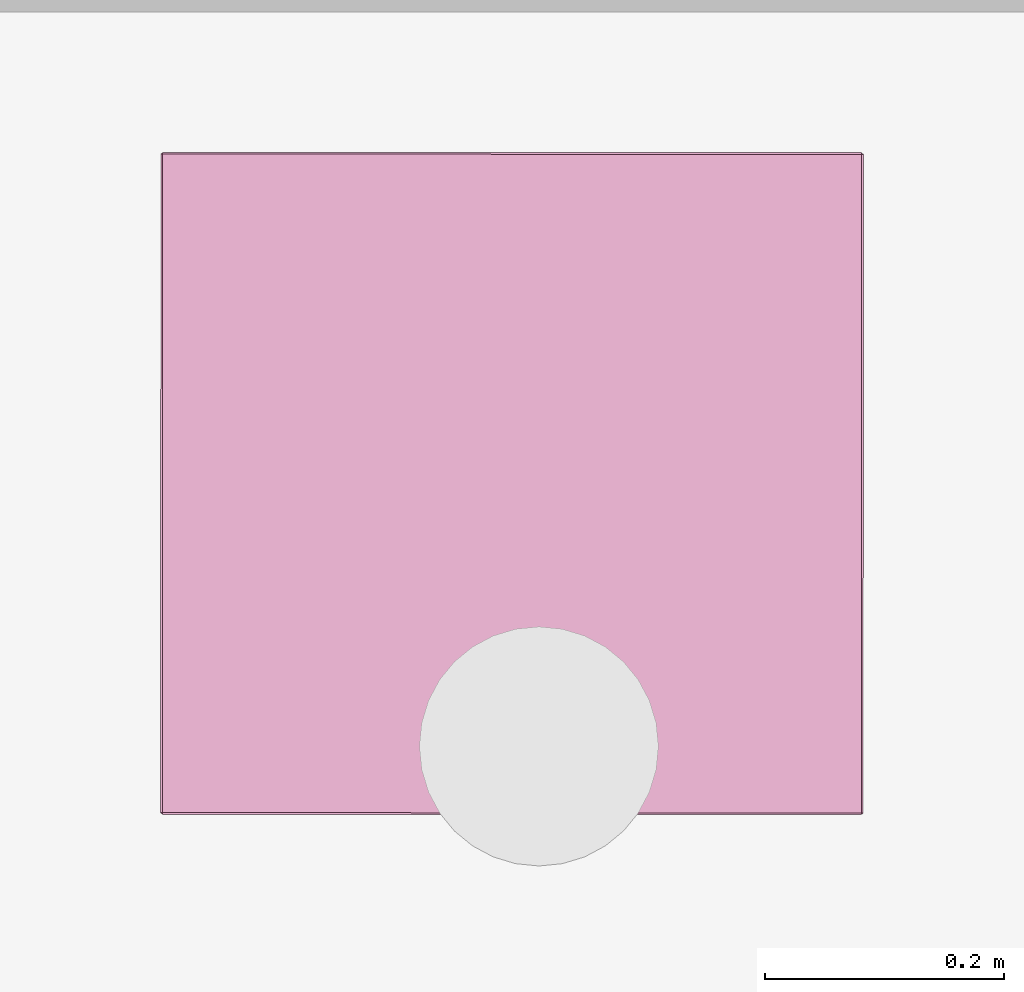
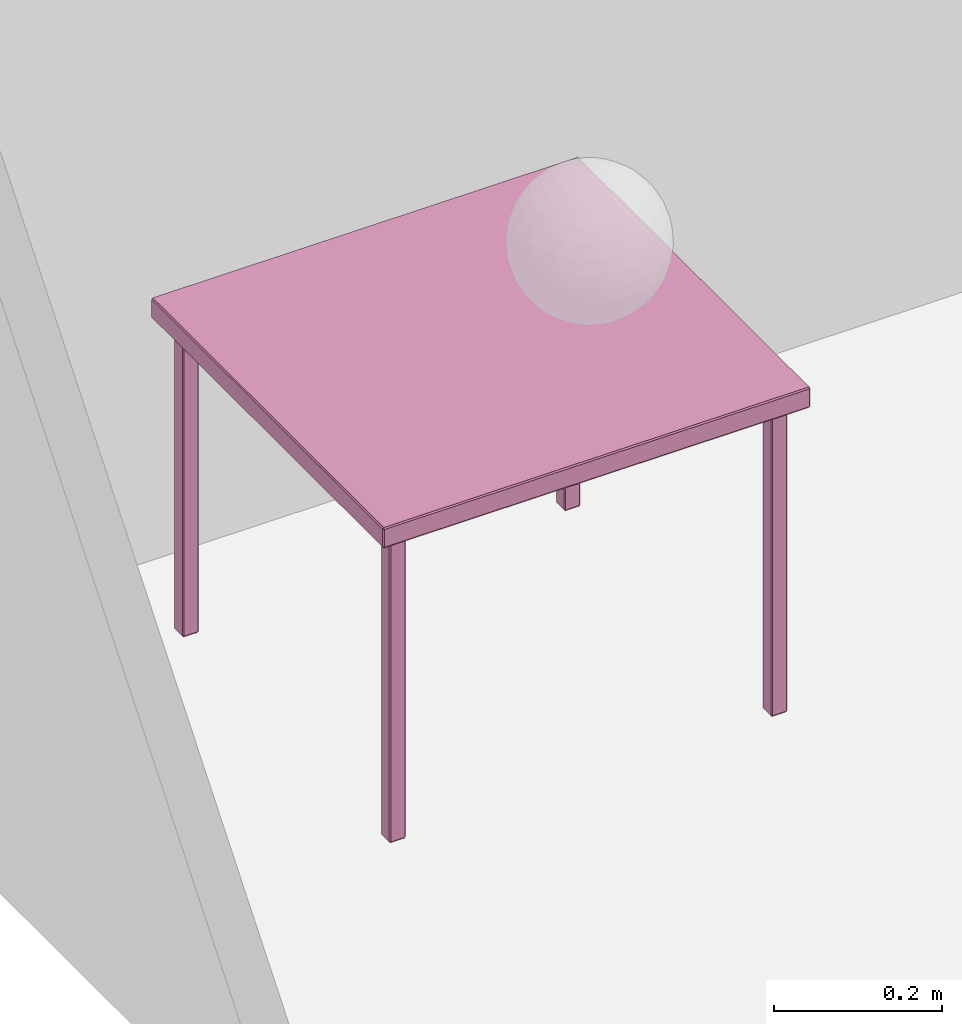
# One storey, part 11 of 12: 1 furnishing.
"""IFC2X3 building model written with IfcOpenShell, lengths in metres."""

from ifc_helpers import new_model, si_unit, direction, frame, origin_with_axes, place, context, project, spatial, faceted_brep, type_object, element, save


model = new_model("IFC2X3")

# Units and contexts
model_context = context("Model", 3, precision=1e-05, world=origin_with_axes(), true_north=direction((0.999, -0.05, 0.0)))
ifc_project = project(units=[si_unit("LENGTHUNIT", "METRE"), si_unit("AREAUNIT", "SQUARE_METRE")], contexts=[model_context])

# Site, building, storey, space
site_placement = place(None, origin_with_axes())
site = spatial("IfcSite", under=ifc_project, at=site_placement, Name="Site", CompositionType="ELEMENT")
building_placement = place(site_placement, origin_with_axes())
building = spatial("IfcBuilding", under=site, at=building_placement, Name="Building", CompositionType="ELEMENT")
storey_placement = place(building_placement, frame((0.0, 0.0, 5.96046447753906e-08), z_axis=(0.0, 0.0, 1.0), x_axis=(1.0, 0.0, 0.0)))
storey = spatial("IfcBuildingStorey", under=building, at=storey_placement, Name="Story 0", CompositionType="ELEMENT", Elevation=5.96046447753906e-08)
space_placement = place(storey_placement, frame((4.44695107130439, 2.32165387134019, 0.0), z_axis=(0.0, 0.0, 1.0), x_axis=(-0.00965765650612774, 0.999953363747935, 0.0)))
space = spatial("IfcSpace", under=storey, at=space_placement, Name="001", CompositionType="ELEMENT", InteriorOrExteriorSpace="INTERNAL")

# Furnishing
furniture_type = type_object("IfcFurnitureType", Name="def7dbe0-cf22-419e-a48c-93f5d0e9233a")
furnishing_placement = place(space_placement, frame((5.10248328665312, 0.2486005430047, 0.238469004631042), z_axis=(0.0, 0.0, 0.999999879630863), x_axis=(-0.999949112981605, 0.0100791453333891, 0.0)))
element("IfcFurnishingElement", 1, at=furnishing_placement, inside=space, type_object=furniture_type, Name="Table", ObjectType="Table", context=model_context, shape_type="Brep", body=[
    faceted_brep([(0.2751, 0.2935, 0.2108), (-0.2751, 0.2935, 0.2108), (0.2751, 0.2935, 0.2364), (-0.2751, 0.2935, 0.2364), (0.2751, 0.2935, 0.2364), (-0.2751, 0.2935, 0.2108), (0.2358, -0.2717, 0.2162), (0.2358, -0.2525, 0.2162), (0.2358, -0.2717, -0.2364), (0.2358, -0.2525, -0.2364), (0.2358, -0.2717, -0.2364), (0.2358, -0.2525, 0.2162), (0.2554, -0.2732, 0.2162), (0.2372, -0.2732, 0.2162), (0.2554, -0.2732, -0.2364), (0.2372, -0.2732, -0.2364), (0.2554, -0.2732, -0.2364), (0.2372, -0.2732, 0.2162), (0.2567, -0.2525, 0.2162), (0.2567, -0.2717, 0.2162), (0.2567, -0.2525, -0.2364), (0.2567, -0.2717, -0.2364), (0.2567, -0.2525, -0.2364), (0.2567, -0.2717, 0.2162), (0.2372, -0.251, 0.2162), (0.2554, -0.251, 0.2162), (0.2372, -0.251, -0.2364), (0.2554, -0.251, -0.2364), (0.2372, -0.251, -0.2364), (0.2554, -0.251, 0.2162), (0.2358, 0.2717, 0.2162), (0.2358, 0.2717, -0.2364), (0.2358, 0.2525, 0.2162), (0.2358, 0.2525, -0.2364), (0.2358, 0.2525, 0.2162), (0.2358, 0.2717, -0.2364), (0.2554, 0.2732, 0.2162), (0.2554, 0.2732, -0.2364), (0.2372, 0.2732, 0.2162), (0.2372, 0.2732, -0.2364), (0.2372, 0.2732, 0.2162), (0.2554, 0.2732, -0.2364), (0.2567, 0.2525, 0.2162), (0.2567, 0.2525, -0.2364), (0.2567, 0.2717, 0.2162), (0.2567, 0.2717, -0.2364), (0.2567, 0.2717, 0.2162), (0.2567, 0.2525, -0.2364), (0.2372, 0.251, 0.2162), (0.2372, 0.251, -0.2364), (0.2554, 0.251, 0.2162), (0.2554, 0.251, -0.2364), (0.2554, 0.251, 0.2162), (0.2372, 0.251, -0.2364), (0.2765, 0.292, 0.2108), (0.2765, 0.292, 0.2364), (0.2765, -0.292, 0.2108), (0.2765, -0.292, 0.2364), (0.2765, -0.292, 0.2108), (0.2765, 0.292, 0.2364), (-0.2765, 0.292, 0.2364), (-0.2765, 0.292, 0.2108), (-0.2765, -0.292, 0.2364), (-0.2765, -0.292, 0.2108), (-0.2765, -0.292, 0.2364), (-0.2765, 0.292, 0.2108), (-0.2358, -0.2717, 0.2162), (-0.2358, -0.2717, -0.2364), (-0.2358, -0.2525, 0.2162), (-0.2358, -0.2525, -0.2364), (-0.2358, -0.2525, 0.2162), (-0.2358, -0.2717, -0.2364), (-0.2554, -0.2732, 0.2162), (-0.2554, -0.2732, -0.2364), (-0.2372, -0.2732, 0.2162), (-0.2372, -0.2732, -0.2364), (-0.2372, -0.2732, 0.2162), (-0.2554, -0.2732, -0.2364), (-0.2567, -0.2525, 0.2162), (-0.2567, -0.2525, -0.2364), (-0.2567, -0.2717, 0.2162), (-0.2567, -0.2717, -0.2364), (-0.2567, -0.2717, 0.2162), (-0.2567, -0.2525, -0.2364), (-0.2372, -0.251, 0.2162), (-0.2372, -0.251, -0.2364), (-0.2554, -0.251, 0.2162), (-0.2554, -0.251, -0.2364), (-0.2554, -0.251, 0.2162), (-0.2372, -0.251, -0.2364), (-0.2358, 0.2717, 0.2162), (-0.2358, 0.2525, 0.2162), (-0.2358, 0.2717, -0.2364), (-0.2358, 0.2525, -0.2364), (-0.2358, 0.2717, -0.2364), (-0.2358, 0.2525, 0.2162), (-0.2554, 0.2732, 0.2162), (-0.2372, 0.2732, 0.2162), (-0.2554, 0.2732, -0.2364), (-0.2372, 0.2732, -0.2364), (-0.2554, 0.2732, -0.2364), (-0.2372, 0.2732, 0.2162), (-0.2567, 0.2525, 0.2162), (-0.2567, 0.2717, 0.2162), (-0.2567, 0.2525, -0.2364), (-0.2567, 0.2717, -0.2364), (-0.2567, 0.2525, -0.2364), (-0.2567, 0.2717, 0.2162), (-0.2372, 0.251, 0.2162), (-0.2554, 0.251, 0.2162), (-0.2372, 0.251, -0.2364), (-0.2554, 0.251, -0.2364), (-0.2372, 0.251, -0.2364), (-0.2554, 0.251, 0.2162), (-0.2751, 0.292, 0.2385), (-0.2751, -0.292, 0.2385), (0.2751, 0.292, 0.2385), (0.2751, -0.292, 0.2385), (0.2751, 0.292, 0.2385), (-0.2751, -0.292, 0.2385), (0.2751, -0.2935, 0.2108), (0.2751, -0.2935, 0.2364), (-0.2751, -0.2935, 0.2108), (-0.2751, -0.2935, 0.2364), (-0.2751, -0.2935, 0.2108), (0.2751, -0.2935, 0.2364), (0.2751, -0.292, 0.2087), (-0.2751, -0.292, 0.2087), (0.2751, 0.292, 0.2087), (-0.2751, 0.292, 0.2087), (0.2751, 0.292, 0.2087), (-0.2751, -0.292, 0.2087), (0.2554, -0.2717, 0.2183), (0.2554, -0.2525, 0.2183), (0.2372, -0.2717, 0.2183), (0.2372, -0.2525, 0.2183), (0.2372, -0.2717, 0.2183), (0.2554, -0.2525, 0.2183), (0.2554, -0.2525, -0.2385), (0.2554, -0.2717, -0.2385), (0.2372, -0.2525, -0.2385), (0.2372, -0.2717, -0.2385), (0.2372, -0.2525, -0.2385), (0.2554, -0.2717, -0.2385), (0.2554, 0.2717, -0.2385), (0.2554, 0.2525, -0.2385), (0.2372, 0.2717, -0.2385), (0.2372, 0.2525, -0.2385), (0.2372, 0.2717, -0.2385), (0.2554, 0.2525, -0.2385), (0.2554, 0.2525, 0.2183), (0.2554, 0.2717, 0.2183), (0.2372, 0.2525, 0.2183), (0.2372, 0.2717, 0.2183), (0.2372, 0.2525, 0.2183), (0.2554, 0.2717, 0.2183), (-0.2554, -0.2717, -0.2385), (-0.2554, -0.2525, -0.2385), (-0.2372, -0.2717, -0.2385), (-0.2372, -0.2525, -0.2385), (-0.2372, -0.2717, -0.2385), (-0.2554, -0.2525, -0.2385), (-0.2554, -0.2525, 0.2183), (-0.2554, -0.2717, 0.2183), (-0.2372, -0.2525, 0.2183), (-0.2372, -0.2717, 0.2183), (-0.2372, -0.2525, 0.2183), (-0.2554, -0.2717, 0.2183), (-0.2554, 0.2717, 0.2183), (-0.2554, 0.2525, 0.2183), (-0.2372, 0.2717, 0.2183), (-0.2372, 0.2525, 0.2183), (-0.2372, 0.2717, 0.2183), (-0.2554, 0.2525, 0.2183), (-0.2554, 0.2525, -0.2385), (-0.2554, 0.2717, -0.2385), (-0.2372, 0.2525, -0.2385), (-0.2372, 0.2717, -0.2385), (-0.2372, 0.2525, -0.2385), (-0.2554, 0.2717, -0.2385), (-0.2751, 0.292, 0.2385), (-0.2751, 0.2935, 0.2364), (-0.2765, 0.292, 0.2364), (0.2372, -0.2525, -0.2385), (0.2358, -0.2525, -0.2364), (0.2372, -0.251, -0.2364), (0.2372, -0.2717, -0.2385), (0.2372, -0.2732, -0.2364), (0.2358, -0.2717, -0.2364), (0.2554, -0.2717, -0.2385), (0.2567, -0.2717, -0.2364), (0.2554, -0.2732, -0.2364), (0.2554, -0.2525, -0.2385), (0.2554, -0.251, -0.2364), (0.2567, -0.2525, -0.2364), (0.2372, -0.2525, 0.2183), (0.2372, -0.251, 0.2162), (0.2358, -0.2525, 0.2162), (0.2372, 0.251, -0.2364), (0.2358, 0.2525, -0.2364), (0.2372, 0.2525, -0.2385), (0.2372, 0.2717, 0.2183), (0.2372, 0.2732, 0.2162), (0.2358, 0.2717, 0.2162), (0.2554, 0.2717, 0.2183), (0.2567, 0.2717, 0.2162), (0.2554, 0.2732, 0.2162), (0.2554, 0.2525, 0.2183), (0.2554, 0.251, 0.2162), (0.2567, 0.2525, 0.2162), (0.2751, -0.2935, 0.2364), (0.2765, -0.292, 0.2364), (0.2751, -0.292, 0.2385), (0.2751, 0.292, 0.2385), (0.2765, 0.292, 0.2364), (0.2751, 0.2935, 0.2364), (-0.2751, -0.2935, 0.2108), (-0.2765, -0.292, 0.2108), (-0.2751, -0.292, 0.2087), (-0.2751, 0.292, 0.2087), (-0.2765, 0.292, 0.2108), (-0.2751, 0.2935, 0.2108), (-0.2372, -0.251, -0.2364), (-0.2358, -0.2525, -0.2364), (-0.2372, -0.2525, -0.2385), (-0.2372, -0.2717, 0.2183), (-0.2372, -0.2732, 0.2162), (-0.2358, -0.2717, 0.2162), (-0.2554, -0.2717, 0.2183), (-0.2567, -0.2717, 0.2162), (-0.2554, -0.2732, 0.2162), (-0.2554, -0.2525, 0.2183), (-0.2554, -0.251, 0.2162), (-0.2567, -0.2525, 0.2162), (-0.2372, 0.2525, -0.2385), (-0.2358, 0.2525, -0.2364), (-0.2372, 0.251, -0.2364), (-0.2372, 0.2717, -0.2385), (-0.2372, 0.2732, -0.2364), (-0.2358, 0.2717, -0.2364), (-0.2554, 0.2717, -0.2385), (-0.2567, 0.2717, -0.2364), (-0.2554, 0.2732, -0.2364), (-0.2554, 0.2525, -0.2385), (-0.2554, 0.251, -0.2364), (-0.2567, 0.2525, -0.2364), (-0.2372, 0.2525, 0.2183), (-0.2372, 0.251, 0.2162), (-0.2358, 0.2525, 0.2162), (-0.2751, -0.2935, 0.2364), (-0.2751, -0.292, 0.2385), (-0.2765, -0.292, 0.2364), (0.2751, -0.2935, 0.2108), (0.2751, -0.292, 0.2087), (0.2765, -0.292, 0.2108), (0.2765, 0.292, 0.2108), (0.2751, 0.292, 0.2087), (0.2751, 0.2935, 0.2108), (0.2554, -0.251, 0.2162), (0.2554, -0.2525, 0.2183), (0.2567, -0.2525, 0.2162), (0.2567, -0.2717, 0.2162), (0.2554, -0.2717, 0.2183), (0.2554, -0.2732, 0.2162), (0.2372, -0.2732, 0.2162), (0.2372, -0.2717, 0.2183), (0.2358, -0.2717, 0.2162), (0.2554, 0.251, -0.2364), (0.2554, 0.2525, -0.2385), (0.2567, 0.2525, -0.2364), (0.2567, 0.2717, -0.2364), (0.2554, 0.2717, -0.2385), (0.2554, 0.2732, -0.2364), (0.2372, 0.2732, -0.2364), (0.2372, 0.2717, -0.2385), (0.2358, 0.2717, -0.2364), (0.2372, 0.251, 0.2162), (0.2372, 0.2525, 0.2183), (0.2358, 0.2525, 0.2162), (-0.2554, -0.251, -0.2364), (-0.2554, -0.2525, -0.2385), (-0.2567, -0.2525, -0.2364), (-0.2567, -0.2717, -0.2364), (-0.2554, -0.2717, -0.2385), (-0.2554, -0.2732, -0.2364), (-0.2372, -0.2732, -0.2364), (-0.2372, -0.2717, -0.2385), (-0.2358, -0.2717, -0.2364), (-0.2372, -0.251, 0.2162), (-0.2372, -0.2525, 0.2183), (-0.2358, -0.2525, 0.2162), (-0.2554, 0.251, 0.2162), (-0.2554, 0.2525, 0.2183), (-0.2567, 0.2525, 0.2162), (-0.2567, 0.2717, 0.2162), (-0.2554, 0.2717, 0.2183), (-0.2554, 0.2732, 0.2162), (-0.2372, 0.2732, 0.2162), (-0.2372, 0.2717, 0.2183), (-0.2358, 0.2717, 0.2162), (-0.2751, 0.2935, 0.2364), (-0.2751, 0.2935, 0.2108), (-0.2765, 0.292, 0.2364), (-0.2765, 0.292, 0.2108), (-0.2765, 0.292, 0.2364), (-0.2751, 0.2935, 0.2108), (-0.2751, 0.2935, 0.2108), (0.2751, 0.2935, 0.2108), (-0.2751, 0.292, 0.2087), (0.2751, 0.292, 0.2087), (-0.2751, 0.292, 0.2087), (0.2751, 0.2935, 0.2108), (0.2751, 0.2935, 0.2108), (0.2751, 0.2935, 0.2364), (0.2765, 0.292, 0.2108), (0.2765, 0.292, 0.2364), (0.2765, 0.292, 0.2108), (0.2751, 0.2935, 0.2364), (0.2751, 0.2935, 0.2364), (-0.2751, 0.2935, 0.2364), (0.2751, 0.292, 0.2385), (-0.2751, 0.292, 0.2385), (0.2751, 0.292, 0.2385), (-0.2751, 0.2935, 0.2364), (0.2358, -0.2525, -0.2364), (0.2358, -0.2525, 0.2162), (0.2372, -0.251, -0.2364), (0.2372, -0.251, 0.2162), (0.2372, -0.251, -0.2364), (0.2358, -0.2525, 0.2162), (0.2358, -0.2525, 0.2162), (0.2358, -0.2717, 0.2162), (0.2372, -0.2525, 0.2183), (0.2372, -0.2717, 0.2183), (0.2372, -0.2525, 0.2183), (0.2358, -0.2717, 0.2162), (0.2358, -0.2717, 0.2162), (0.2358, -0.2717, -0.2364), (0.2372, -0.2732, 0.2162), (0.2372, -0.2732, -0.2364), (0.2372, -0.2732, 0.2162), (0.2358, -0.2717, -0.2364), (0.2358, -0.2717, -0.2364), (0.2358, -0.2525, -0.2364), (0.2372, -0.2717, -0.2385), (0.2372, -0.2525, -0.2385), (0.2372, -0.2717, -0.2385), (0.2358, -0.2525, -0.2364), (0.2372, -0.2732, 0.2162), (0.2554, -0.2732, 0.2162), (0.2372, -0.2717, 0.2183), (0.2554, -0.2717, 0.2183), (0.2372, -0.2717, 0.2183), (0.2554, -0.2732, 0.2162), (0.2554, -0.2732, 0.2162), (0.2554, -0.2732, -0.2364), (0.2567, -0.2717, 0.2162), (0.2567, -0.2717, -0.2364), (0.2567, -0.2717, 0.2162), (0.2554, -0.2732, -0.2364), (0.2554, -0.2732, -0.2364), (0.2372, -0.2732, -0.2364), (0.2554, -0.2717, -0.2385), (0.2372, -0.2717, -0.2385), (0.2554, -0.2717, -0.2385), (0.2372, -0.2732, -0.2364), (0.2567, -0.2717, 0.2162), (0.2567, -0.2525, 0.2162), (0.2554, -0.2717, 0.2183), (0.2554, -0.2525, 0.2183), (0.2554, -0.2717, 0.2183), (0.2567, -0.2525, 0.2162), (0.2567, -0.2525, 0.2162), (0.2567, -0.2525, -0.2364), (0.2554, -0.251, 0.2162), (0.2554, -0.251, -0.2364), (0.2554, -0.251, 0.2162), (0.2567, -0.2525, -0.2364), (0.2567, -0.2525, -0.2364), (0.2567, -0.2717, -0.2364), (0.2554, -0.2525, -0.2385), (0.2554, -0.2717, -0.2385), (0.2554, -0.2525, -0.2385), (0.2567, -0.2717, -0.2364), (0.2554, -0.251, 0.2162), (0.2372, -0.251, 0.2162), (0.2554, -0.2525, 0.2183), (0.2372, -0.2525, 0.2183), (0.2554, -0.2525, 0.2183), (0.2372, -0.251, 0.2162), (0.2372, -0.251, -0.2364), (0.2554, -0.251, -0.2364), (0.2372, -0.2525, -0.2385), (0.2554, -0.2525, -0.2385), (0.2372, -0.2525, -0.2385), (0.2554, -0.251, -0.2364), (0.2358, 0.2525, -0.2364), (0.2358, 0.2717, -0.2364), (0.2372, 0.2525, -0.2385), (0.2372, 0.2717, -0.2385), (0.2372, 0.2525, -0.2385), (0.2358, 0.2717, -0.2364), (0.2358, 0.2717, -0.2364), (0.2358, 0.2717, 0.2162), (0.2372, 0.2732, -0.2364), (0.2372, 0.2732, 0.2162), (0.2372, 0.2732, -0.2364), (0.2358, 0.2717, 0.2162), (0.2358, 0.2717, 0.2162), (0.2358, 0.2525, 0.2162), (0.2372, 0.2717, 0.2183), (0.2372, 0.2525, 0.2183), (0.2372, 0.2717, 0.2183), (0.2358, 0.2525, 0.2162), (0.2358, 0.2525, 0.2162), (0.2358, 0.2525, -0.2364), (0.2372, 0.251, 0.2162), (0.2372, 0.251, -0.2364), (0.2372, 0.251, 0.2162), (0.2358, 0.2525, -0.2364), (0.2372, 0.2732, -0.2364), (0.2554, 0.2732, -0.2364), (0.2372, 0.2717, -0.2385), (0.2554, 0.2717, -0.2385), (0.2372, 0.2717, -0.2385), (0.2554, 0.2732, -0.2364), (0.2554, 0.2732, -0.2364), (0.2554, 0.2732, 0.2162), (0.2567, 0.2717, -0.2364), (0.2567, 0.2717, 0.2162), (0.2567, 0.2717, -0.2364), (0.2554, 0.2732, 0.2162), (0.2554, 0.2732, 0.2162), (0.2372, 0.2732, 0.2162), (0.2554, 0.2717, 0.2183), (0.2372, 0.2717, 0.2183), (0.2554, 0.2717, 0.2183), (0.2372, 0.2732, 0.2162), (0.2567, 0.2717, -0.2364), (0.2567, 0.2525, -0.2364), (0.2554, 0.2717, -0.2385), (0.2554, 0.2525, -0.2385), (0.2554, 0.2717, -0.2385), (0.2567, 0.2525, -0.2364), (0.2567, 0.2525, -0.2364), (0.2567, 0.2525, 0.2162), (0.2554, 0.251, -0.2364), (0.2554, 0.251, 0.2162), (0.2554, 0.251, -0.2364), (0.2567, 0.2525, 0.2162), (0.2567, 0.2525, 0.2162), (0.2567, 0.2717, 0.2162), (0.2554, 0.2525, 0.2183), (0.2554, 0.2717, 0.2183), (0.2554, 0.2525, 0.2183), (0.2567, 0.2717, 0.2162), (0.2554, 0.251, -0.2364), (0.2372, 0.251, -0.2364), (0.2554, 0.2525, -0.2385), (0.2372, 0.2525, -0.2385), (0.2554, 0.2525, -0.2385), (0.2372, 0.251, -0.2364), (0.2372, 0.251, 0.2162), (0.2554, 0.251, 0.2162), (0.2372, 0.2525, 0.2183), (0.2554, 0.2525, 0.2183), (0.2372, 0.2525, 0.2183), (0.2554, 0.251, 0.2162), (0.2765, -0.292, 0.2364), (0.2765, 0.292, 0.2364), (0.2751, -0.292, 0.2385), (0.2751, 0.292, 0.2385), (0.2751, -0.292, 0.2385), (0.2765, 0.292, 0.2364), (0.2765, 0.292, 0.2108), (0.2765, -0.292, 0.2108), (0.2751, 0.292, 0.2087), (0.2751, -0.292, 0.2087), (0.2751, 0.292, 0.2087), (0.2765, -0.292, 0.2108), (0.2765, -0.292, 0.2108), (0.2765, -0.292, 0.2364), (0.2751, -0.2935, 0.2108), (0.2751, -0.2935, 0.2364), (0.2751, -0.2935, 0.2108), (0.2765, -0.292, 0.2364), (-0.2765, -0.292, 0.2108), (-0.2765, 0.292, 0.2108), (-0.2751, -0.292, 0.2087), (-0.2751, 0.292, 0.2087), (-0.2751, -0.292, 0.2087), (-0.2765, 0.292, 0.2108), (-0.2765, 0.292, 0.2364), (-0.2765, -0.292, 0.2364), (-0.2751, 0.292, 0.2385), (-0.2751, -0.292, 0.2385), (-0.2751, 0.292, 0.2385), (-0.2765, -0.292, 0.2364), (-0.2765, -0.292, 0.2364), (-0.2765, -0.292, 0.2108), (-0.2751, -0.2935, 0.2364), (-0.2751, -0.2935, 0.2108), (-0.2751, -0.2935, 0.2364), (-0.2765, -0.292, 0.2108), (-0.2358, -0.2525, -0.2364), (-0.2358, -0.2717, -0.2364), (-0.2372, -0.2525, -0.2385), (-0.2372, -0.2717, -0.2385), (-0.2372, -0.2525, -0.2385), (-0.2358, -0.2717, -0.2364), (-0.2358, -0.2717, -0.2364), (-0.2358, -0.2717, 0.2162), (-0.2372, -0.2732, -0.2364), (-0.2372, -0.2732, 0.2162), (-0.2372, -0.2732, -0.2364), (-0.2358, -0.2717, 0.2162), (-0.2358, -0.2717, 0.2162), (-0.2358, -0.2525, 0.2162), (-0.2372, -0.2717, 0.2183), (-0.2372, -0.2525, 0.2183), (-0.2372, -0.2717, 0.2183), (-0.2358, -0.2525, 0.2162), (-0.2358, -0.2525, 0.2162), (-0.2358, -0.2525, -0.2364), (-0.2372, -0.251, 0.2162), (-0.2372, -0.251, -0.2364), (-0.2372, -0.251, 0.2162), (-0.2358, -0.2525, -0.2364), (-0.2372, -0.2732, -0.2364), (-0.2554, -0.2732, -0.2364), (-0.2372, -0.2717, -0.2385), (-0.2554, -0.2717, -0.2385), (-0.2372, -0.2717, -0.2385), (-0.2554, -0.2732, -0.2364), (-0.2554, -0.2732, -0.2364), (-0.2554, -0.2732, 0.2162), (-0.2567, -0.2717, -0.2364), (-0.2567, -0.2717, 0.2162), (-0.2567, -0.2717, -0.2364), (-0.2554, -0.2732, 0.2162), (-0.2554, -0.2732, 0.2162), (-0.2372, -0.2732, 0.2162), (-0.2554, -0.2717, 0.2183), (-0.2372, -0.2717, 0.2183), (-0.2554, -0.2717, 0.2183), (-0.2372, -0.2732, 0.2162), (-0.2567, -0.2717, -0.2364), (-0.2567, -0.2525, -0.2364), (-0.2554, -0.2717, -0.2385), (-0.2554, -0.2525, -0.2385), (-0.2554, -0.2717, -0.2385), (-0.2567, -0.2525, -0.2364), (-0.2567, -0.2525, -0.2364), (-0.2567, -0.2525, 0.2162), (-0.2554, -0.251, -0.2364), (-0.2554, -0.251, 0.2162), (-0.2554, -0.251, -0.2364), (-0.2567, -0.2525, 0.2162), (-0.2567, -0.2525, 0.2162), (-0.2567, -0.2717, 0.2162), (-0.2554, -0.2525, 0.2183), (-0.2554, -0.2717, 0.2183), (-0.2554, -0.2525, 0.2183), (-0.2567, -0.2717, 0.2162), (-0.2554, -0.251, -0.2364), (-0.2372, -0.251, -0.2364), (-0.2554, -0.2525, -0.2385), (-0.2372, -0.2525, -0.2385), (-0.2554, -0.2525, -0.2385), (-0.2372, -0.251, -0.2364), (-0.2372, -0.251, 0.2162), (-0.2554, -0.251, 0.2162), (-0.2372, -0.2525, 0.2183), (-0.2554, -0.2525, 0.2183), (-0.2372, -0.2525, 0.2183), (-0.2554, -0.251, 0.2162), (-0.2358, 0.2525, -0.2364), (-0.2358, 0.2525, 0.2162), (-0.2372, 0.251, -0.2364), (-0.2372, 0.251, 0.2162), (-0.2372, 0.251, -0.2364), (-0.2358, 0.2525, 0.2162), (-0.2358, 0.2525, 0.2162), (-0.2358, 0.2717, 0.2162), (-0.2372, 0.2525, 0.2183), (-0.2372, 0.2717, 0.2183), (-0.2372, 0.2525, 0.2183), (-0.2358, 0.2717, 0.2162), (-0.2358, 0.2717, 0.2162), (-0.2358, 0.2717, -0.2364), (-0.2372, 0.2732, 0.2162), (-0.2372, 0.2732, -0.2364), (-0.2372, 0.2732, 0.2162), (-0.2358, 0.2717, -0.2364), (-0.2358, 0.2717, -0.2364), (-0.2358, 0.2525, -0.2364), (-0.2372, 0.2717, -0.2385), (-0.2372, 0.2525, -0.2385), (-0.2372, 0.2717, -0.2385), (-0.2358, 0.2525, -0.2364), (-0.2372, 0.2732, 0.2162), (-0.2554, 0.2732, 0.2162), (-0.2372, 0.2717, 0.2183), (-0.2554, 0.2717, 0.2183), (-0.2372, 0.2717, 0.2183), (-0.2554, 0.2732, 0.2162), (-0.2554, 0.2732, 0.2162), (-0.2554, 0.2732, -0.2364), (-0.2567, 0.2717, 0.2162), (-0.2567, 0.2717, -0.2364), (-0.2567, 0.2717, 0.2162), (-0.2554, 0.2732, -0.2364), (-0.2554, 0.2732, -0.2364), (-0.2372, 0.2732, -0.2364), (-0.2554, 0.2717, -0.2385), (-0.2372, 0.2717, -0.2385), (-0.2554, 0.2717, -0.2385), (-0.2372, 0.2732, -0.2364), (-0.2567, 0.2717, 0.2162), (-0.2567, 0.2525, 0.2162), (-0.2554, 0.2717, 0.2183), (-0.2554, 0.2525, 0.2183), (-0.2554, 0.2717, 0.2183), (-0.2567, 0.2525, 0.2162), (-0.2567, 0.2525, 0.2162), (-0.2567, 0.2525, -0.2364), (-0.2554, 0.251, 0.2162), (-0.2554, 0.251, -0.2364), (-0.2554, 0.251, 0.2162), (-0.2567, 0.2525, -0.2364), (-0.2567, 0.2525, -0.2364), (-0.2567, 0.2717, -0.2364), (-0.2554, 0.2525, -0.2385), (-0.2554, 0.2717, -0.2385), (-0.2554, 0.2525, -0.2385), (-0.2567, 0.2717, -0.2364), (-0.2554, 0.251, 0.2162), (-0.2372, 0.251, 0.2162), (-0.2554, 0.2525, 0.2183), (-0.2372, 0.2525, 0.2183), (-0.2554, 0.2525, 0.2183), (-0.2372, 0.251, 0.2162), (-0.2372, 0.251, -0.2364), (-0.2554, 0.251, -0.2364), (-0.2372, 0.2525, -0.2385), (-0.2554, 0.2525, -0.2385), (-0.2372, 0.2525, -0.2385), (-0.2554, 0.251, -0.2364), (0.2751, -0.292, 0.2385), (-0.2751, -0.292, 0.2385), (0.2751, -0.2935, 0.2364), (-0.2751, -0.2935, 0.2364), (0.2751, -0.2935, 0.2364), (-0.2751, -0.292, 0.2385), (0.2751, -0.2935, 0.2108), (-0.2751, -0.2935, 0.2108), (0.2751, -0.292, 0.2087), (-0.2751, -0.292, 0.2087), (0.2751, -0.292, 0.2087), (-0.2751, -0.2935, 0.2108)], [[[0, 1, 2]], [[3, 4, 5]], [[6, 7, 8]], [[9, 10, 11]], [[12, 13, 14]], [[15, 16, 17]], [[18, 19, 20]], [[21, 22, 23]], [[24, 25, 26]], [[27, 28, 29]], [[30, 31, 32]], [[33, 34, 35]], [[36, 37, 38]], [[39, 40, 41]], [[42, 43, 44]], [[45, 46, 47]], [[48, 49, 50]], [[51, 52, 53]], [[54, 55, 56]], [[57, 58, 59]], [[60, 61, 62]], [[63, 64, 65]], [[66, 67, 68]], [[69, 70, 71]], [[72, 73, 74]], [[75, 76, 77]], [[78, 79, 80]], [[81, 82, 83]], [[84, 85, 86]], [[87, 88, 89]], [[90, 91, 92]], [[93, 94, 95]], [[96, 97, 98]], [[99, 100, 101]], [[102, 103, 104]], [[105, 106, 107]], [[108, 109, 110]], [[111, 112, 113]], [[114, 115, 116]], [[117, 118, 119]], [[120, 121, 122]], [[123, 124, 125]], [[126, 127, 128]], [[129, 130, 131]], [[132, 133, 134]], [[135, 136, 137]], [[138, 139, 140]], [[141, 142, 143]], [[144, 145, 146]], [[147, 148, 149]], [[150, 151, 152]], [[153, 154, 155]], [[156, 157, 158]], [[159, 160, 161]], [[162, 163, 164]], [[165, 166, 167]], [[168, 169, 170]], [[171, 172, 173]], [[174, 175, 176]], [[177, 178, 179]], [[180, 181, 182]], [[183, 184, 185]], [[186, 187, 188]], [[189, 190, 191]], [[192, 193, 194]], [[195, 196, 197]], [[198, 199, 200]], [[201, 202, 203]], [[204, 205, 206]], [[207, 208, 209]], [[210, 211, 212]], [[213, 214, 215]], [[216, 217, 218]], [[219, 220, 221]], [[222, 223, 224]], [[225, 226, 227]], [[228, 229, 230]], [[231, 232, 233]], [[234, 235, 236]], [[237, 238, 239]], [[240, 241, 242]], [[243, 244, 245]], [[246, 247, 248]], [[249, 250, 251]], [[252, 253, 254]], [[255, 256, 257]], [[258, 259, 260]], [[261, 262, 263]], [[264, 265, 266]], [[267, 268, 269]], [[270, 271, 272]], [[273, 274, 275]], [[276, 277, 278]], [[279, 280, 281]], [[282, 283, 284]], [[285, 286, 287]], [[288, 289, 290]], [[291, 292, 293]], [[294, 295, 296]], [[297, 298, 299]], [[300, 301, 302]], [[303, 304, 305]], [[306, 307, 308]], [[309, 310, 311]], [[312, 313, 314]], [[315, 316, 317]], [[318, 319, 320]], [[321, 322, 323]], [[324, 325, 326]], [[327, 328, 329]], [[330, 331, 332]], [[333, 334, 335]], [[336, 337, 338]], [[339, 340, 341]], [[342, 343, 344]], [[345, 346, 347]], [[348, 349, 350]], [[351, 352, 353]], [[354, 355, 356]], [[357, 358, 359]], [[360, 361, 362]], [[363, 364, 365]], [[366, 367, 368]], [[369, 370, 371]], [[372, 373, 374]], [[375, 376, 377]], [[378, 379, 380]], [[381, 382, 383]], [[384, 385, 386]], [[387, 388, 389]], [[390, 391, 392]], [[393, 394, 395]], [[396, 397, 398]], [[399, 400, 401]], [[402, 403, 404]], [[405, 406, 407]], [[408, 409, 410]], [[411, 412, 413]], [[414, 415, 416]], [[417, 418, 419]], [[420, 421, 422]], [[423, 424, 425]], [[426, 427, 428]], [[429, 430, 431]], [[432, 433, 434]], [[435, 436, 437]], [[438, 439, 440]], [[441, 442, 443]], [[444, 445, 446]], [[447, 448, 449]], [[450, 451, 452]], [[453, 454, 455]], [[456, 457, 458]], [[459, 460, 461]], [[462, 463, 464]], [[465, 466, 467]], [[468, 469, 470]], [[471, 472, 473]], [[474, 475, 476]], [[477, 478, 479]], [[480, 481, 482]], [[483, 484, 485]], [[486, 487, 488]], [[489, 490, 491]], [[492, 493, 494]], [[495, 496, 497]], [[498, 499, 500]], [[501, 502, 503]], [[504, 505, 506]], [[507, 508, 509]], [[510, 511, 512]], [[513, 514, 515]], [[516, 517, 518]], [[519, 520, 521]], [[522, 523, 524]], [[525, 526, 527]], [[528, 529, 530]], [[531, 532, 533]], [[534, 535, 536]], [[537, 538, 539]], [[540, 541, 542]], [[543, 544, 545]], [[546, 547, 548]], [[549, 550, 551]], [[552, 553, 554]], [[555, 556, 557]], [[558, 559, 560]], [[561, 562, 563]], [[564, 565, 566]], [[567, 568, 569]], [[570, 571, 572]], [[573, 574, 575]], [[576, 577, 578]], [[579, 580, 581]], [[582, 583, 584]], [[585, 586, 587]], [[588, 589, 590]], [[591, 592, 593]], [[594, 595, 596]], [[597, 598, 599]], [[600, 601, 602]], [[603, 604, 605]], [[606, 607, 608]], [[609, 610, 611]], [[612, 613, 614]], [[615, 616, 617]], [[618, 619, 620]], [[621, 622, 623]], [[624, 625, 626]], [[627, 628, 629]], [[630, 631, 632]], [[633, 634, 635]], [[636, 637, 638]], [[639, 640, 641]], [[642, 643, 644]], [[645, 646, 647]], [[648, 649, 650]], [[651, 652, 653]], [[654, 655, 656]], [[657, 658, 659]]]),
])

save(model, "model.ifc")
